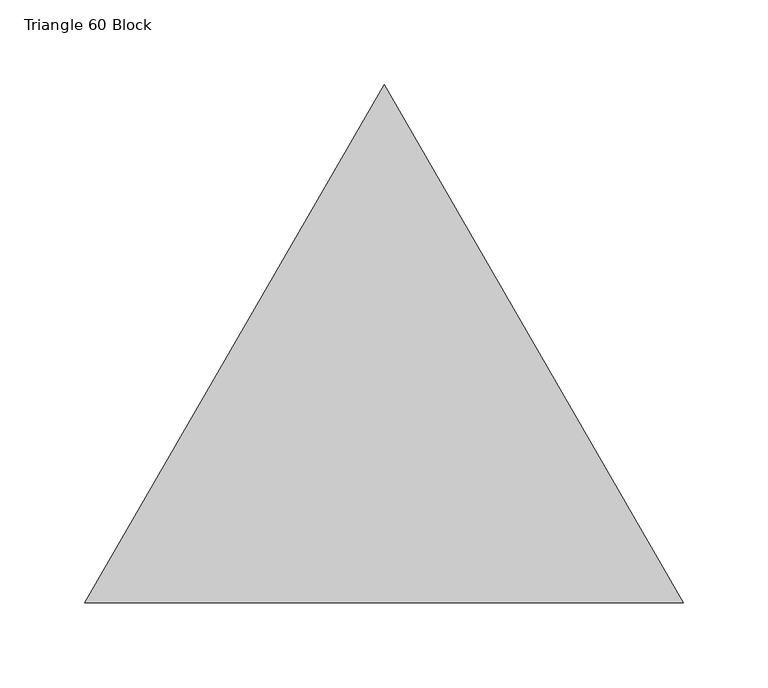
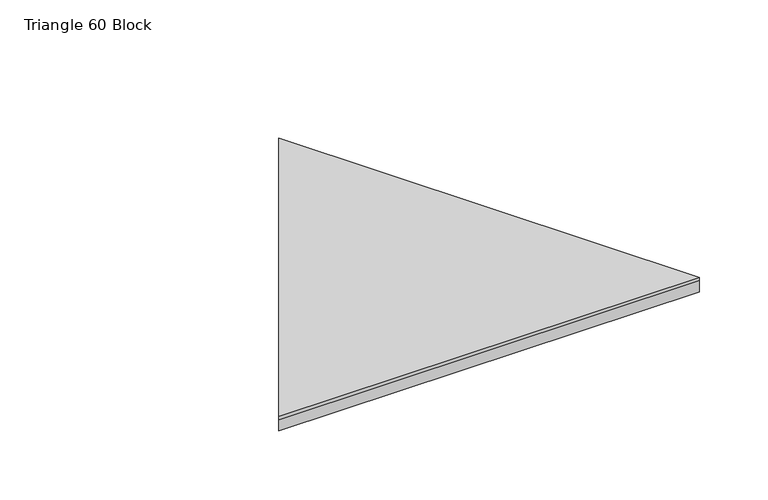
"""IFC4 building model written with IfcOpenShell, lengths in millimetres: proxy geometry, FilzFelt_Triangle_60_Block : Triangle 60 Block."""

from ifc_helpers import new_model, si_unit, frame, origin, origin_with_axes, place, context, project, spatial, polyline, outline, extrude, source, transform, mapped, element, save


def triangle_60_block_95fa7baf(model_context):
    return source(origin(), model_context, "Body", "SweptSolid", [
        extrude(outline(polyline([(-176.2125, -152.5), (0.0, 152.7090029), (176.2125, -152.5), (-176.2125, -152.5)])), frame((0.0, 0.0, 10.0210937), z_axis=(0.0, 0.0, 1.0), x_axis=(1.0, 0.0, 0.0)), (0.0, 0.0, 1.0), 2.9765625),
        extrude(outline(polyline([(176.2125, -152.5), (-176.2125, -152.5), (0.0, 152.7090029), (176.2125, -152.5)])), origin_with_axes(), (0.0, 0.0, 1.0), 10.0210938),
    ])


if __name__ == "__main__":
    model = new_model("IFC4")
    model_context = context("Model", 3, world=origin())
    ifc_project = project(units=[si_unit("LENGTHUNIT", "METRE", prefix="MILLI")], contexts=[model_context])
    site = spatial("IfcSite", under=ifc_project)
    building = spatial("IfcBuilding", under=site)
    placement = place(None, origin())
    triangle_60_block_shape = triangle_60_block_95fa7baf(model_context)
    element("IfcBuildingElementProxy", 1, Name="FilzFelt_Triangle_60_Block : Triangle 60 Block", ObjectType="FilzFelt_Triangle_60_Block : Triangle 60 Block", at=placement, inside=building, context=model_context, shape_type="MappedRepresentation", body=[
        mapped(triangle_60_block_shape, transform((0.0, 0.0, 0.0), x_axis=(1.0, 0.0, 0.0), y_axis=(0.0, 1.0, 0.0), z_axis=(0.0, 0.0, 1.0))),
    ])
    save(model, "model.ifc")
